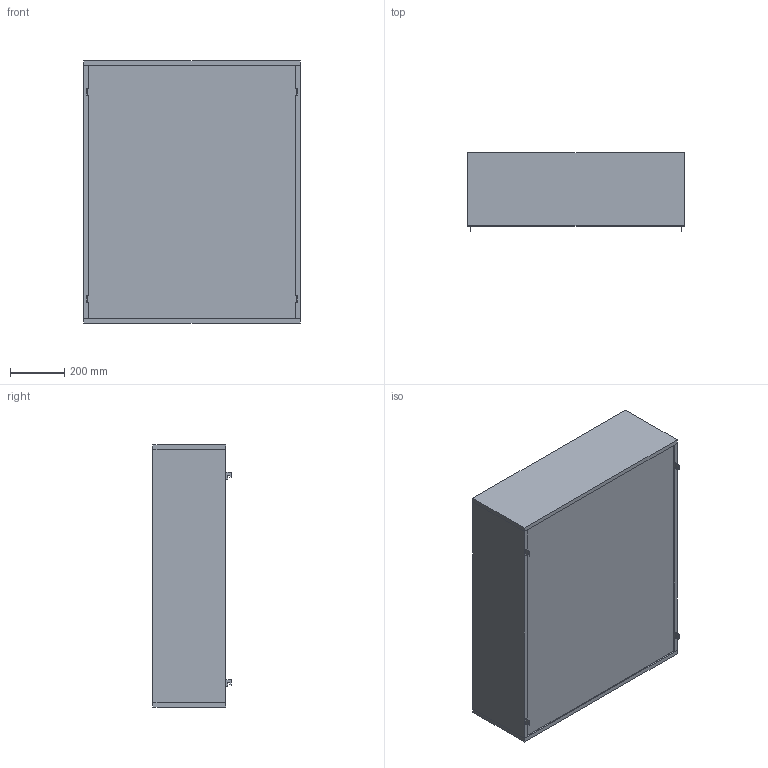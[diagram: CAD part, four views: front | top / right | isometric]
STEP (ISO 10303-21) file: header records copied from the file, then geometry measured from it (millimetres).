
FILE_DESCRIPTION(/* description */ (''),/* implementation_level */ '2;1');
FILE_NAME(/* name */ 'SHELF_LIBRARY_CABINET_970',/* time_stamp */ '2022-09-15T11:51:32+02:00',/* author */ (''),/* organization */ (''),/* preprocessor_version */ 'ST-DEVELOPER v16.5',/* originating_system */ '',/* authorisation */ '');
FILE_SCHEMA (('AUTOMOTIVE_DESIGN'));
Length unit declared in the file: millimetre
Products named in the file (1): Document
Bounding box: 800 x 289 x 969.97 mm (x, y, z)
Volume: 35245340.6 mm3; surface area: 6182061.4 mm2
Topology: 15 solids, 15 shells, 228 faces, 535 edges, 360 vertices
Faces by surface type: plane 156, bspline 72
Entity records: 6732 total; most frequent: CARTESIAN_POINT 3204, ORIENTED_EDGE 1056, EDGE_CURVE 528, VERTEX_POINT 352, B_SPLINE_CURVE_WITH_KNOTS 305, EDGE_LOOP 266, ADVANCED_FACE 228, FACE_OUTER_BOUND 228
